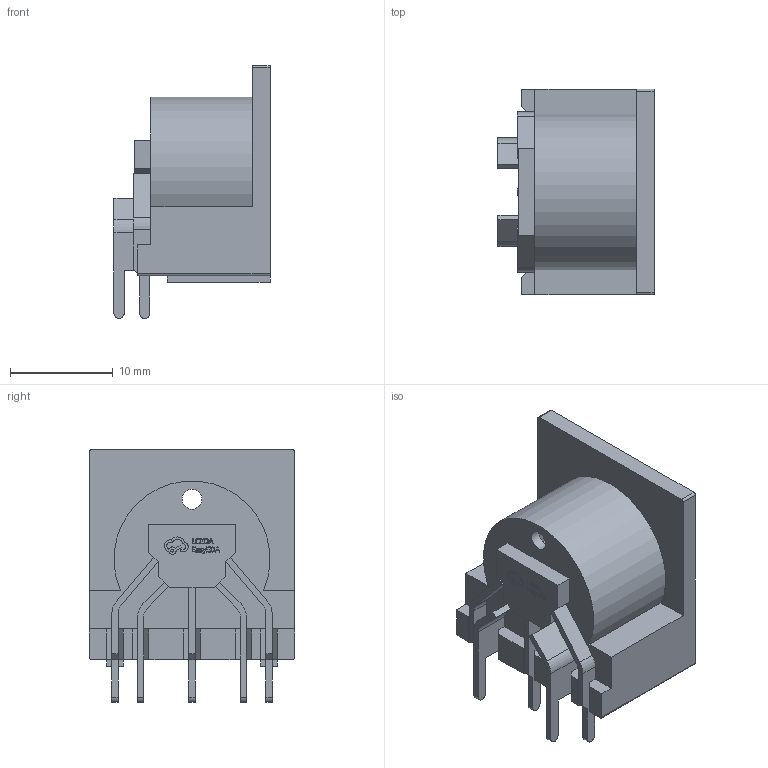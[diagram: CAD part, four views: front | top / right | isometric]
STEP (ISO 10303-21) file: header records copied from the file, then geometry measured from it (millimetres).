
FILE_DESCRIPTION(/* description */ ('STEP AP242 Edition 2','CAx-IF Rec.Pracs.---Representation and Presentation of Product Manufacturing Information (PMI)---4.0---2014-10-13','CAx-IF Rec.Pracs.---3D Tessellated Geometry---0.4---2014-09-14','2;1','CAx-IF Rec.Pracs.---User Defined Attributes---1.5---2016-08-15'),/* implementation_level */ '2;1');
FILE_NAME(/* name */ 'Assembly 1 - CP-2350~CONN-TH_DIN-504D-M5~nxQB',/* time_stamp */ '2026-04-02T09:55:13Z',/* author */ (''),/* organization */ (''),/* preprocessor_version */ 'ST-DEVELOPER v20',/* originating_system */ 'ONSHAPE BY PTC INC, 1.212',/* authorisation */ ' ');
FILE_SCHEMA (('AP242_MANAGED_MODEL_BASED_3D_ENGINEERING_MIM_LF { 1 0 10303 442 3 1 4 }'));
Length unit declared in the file: metre
Products named in the file (1): CP-2350~CONN-TH_DIN-504D-M5~nxQB
Bounding box: 15.2 x 20 x 24.6 mm (x, y, z)
Volume: 2795.6 mm3; surface area: 3638.4 mm2
Topology: 1 solids, 1 shells, 563 faces, 1535 edges, 1002 vertices
Faces by surface type: plane 343, cylinder 111, bspline 98, torus 11
Full cylindrical faces by diameter (mm): 1.933 x1, 2.5 x2, 14 x1
Entity records: 22088 total; most frequent: CARTESIAN_POINT 4459, ORIENTED_EDGE 3062, DIRECTION 2434, EDGE_CURVE 1531, LINE 1124, VECTOR 1124, VERTEX_POINT 1002, AXIS2_PLACEMENT_3D 655
